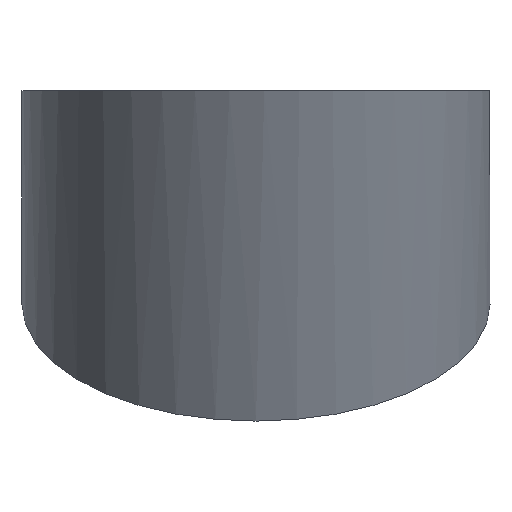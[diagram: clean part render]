
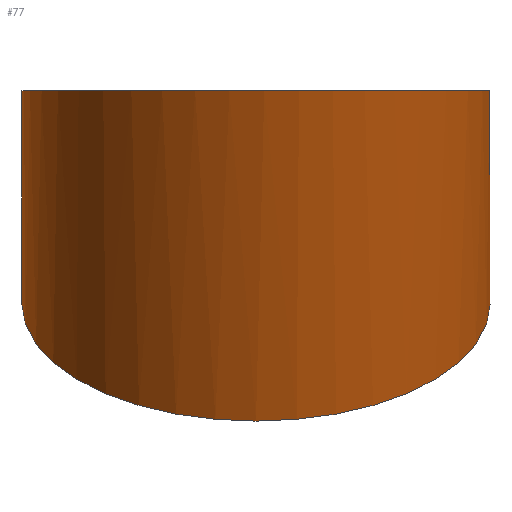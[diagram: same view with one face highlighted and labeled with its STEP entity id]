
A CAD part, front view. The second image highlights one B-rep face of the part: STEP entity #77.
In plain terms, the highlighted cylindrical face has radius 3.4 mm (diameter 6.8 mm), a full revolution.
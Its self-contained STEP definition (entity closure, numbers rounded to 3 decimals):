
#15=LINE('',#150,#17);
#17=VECTOR('',#127,3.4);
#19=CIRCLE('',#106,3.4);
#22=CYLINDRICAL_SURFACE('',#105,3.4);
#27=FACE_OUTER_BOUND('',#32,.T.);
#32=EDGE_LOOP('',(#60,#61,#62,#63,#64));
#36=ELLIPSE('',#101,3.926,3.4);
#37=ELLIPSE('',#102,3.926,3.4);
#40=VERTEX_POINT('',#139);
#41=VERTEX_POINT('',#140);
#44=VERTEX_POINT('',#148);
#47=EDGE_CURVE('',#40,#41,#36,.T.);
#48=EDGE_CURVE('',#41,#40,#37,.T.);
#51=EDGE_CURVE('',#44,#44,#19,.T.);
#52=EDGE_CURVE('',#44,#41,#15,.T.);
#60=ORIENTED_EDGE('',*,*,#51,.F.);
#61=ORIENTED_EDGE('',*,*,#52,.T.);
#62=ORIENTED_EDGE('',*,*,#48,.T.);
#63=ORIENTED_EDGE('',*,*,#47,.T.);
#64=ORIENTED_EDGE('',*,*,#52,.F.);
#77=ADVANCED_FACE('',(#27),#22,.T.);
#101=AXIS2_PLACEMENT_3D('',#141,#115,#116);
#102=AXIS2_PLACEMENT_3D('',#142,#117,#118);
#105=AXIS2_PLACEMENT_3D('',#147,#123,#124);
#106=AXIS2_PLACEMENT_3D('',#149,#125,#126);
#115=DIRECTION('center_axis',(0.,0.,-1.));
#116=DIRECTION('ref_axis',(0.,-1.,0.));
#117=DIRECTION('center_axis',(0.,0.,-1.));
#118=DIRECTION('ref_axis',(0.,-1.,0.));
#123=DIRECTION('center_axis',(0.,0.5,-0.866));
#124=DIRECTION('ref_axis',(1.,0.,0.));
#125=DIRECTION('center_axis',(0.,0.5,-0.866));
#126=DIRECTION('ref_axis',(1.,0.,0.));
#127=DIRECTION('',(0.,-0.5,0.866));
#139=CARTESIAN_POINT('',(131.9,84.,0.));
#140=CARTESIAN_POINT('',(125.25,82.845,0.));
#141=CARTESIAN_POINT('Origin',(128.65,82.845,0.));
#142=CARTESIAN_POINT('Origin',(128.65,82.845,0.));
#147=CARTESIAN_POINT('Origin',(128.65,83.134,-0.5));
#148=CARTESIAN_POINT('',(125.25,84.634,-3.098));
#149=CARTESIAN_POINT('Origin',(128.65,84.634,-3.098));
#150=CARTESIAN_POINT('',(125.25,83.134,-0.5));
